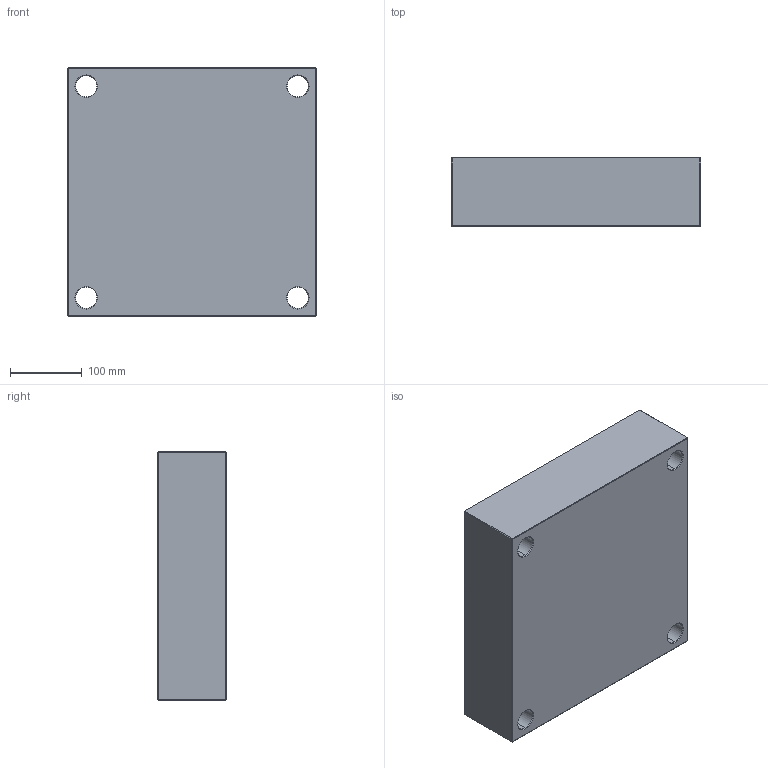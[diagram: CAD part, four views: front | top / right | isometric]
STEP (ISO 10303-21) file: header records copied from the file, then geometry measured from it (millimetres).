
FILE_DESCRIPTION (( 'STEP AP214' ), '1' );
FILE_NAME ('PCX-346x346x96.STEP', '2020-05-04T08:32:37', ( 'August' ), ( '' ), 'SwSTEP 2.0', 'SolidWorks 2018', '' );
FILE_SCHEMA (( 'AUTOMOTIVE_DESIGN' ));
Length unit declared in the file: millimetre
Products named in the file (1): PCX-346x346x96
Bounding box: 346 x 96 x 346 mm (x, y, z)
Volume: 11210581.2 mm3; surface area: 404070.5 mm2
Topology: 1 solids, 1 shells, 82 faces, 168 edges, 96 vertices
Faces by surface type: plane 34, cone 24, cylinder 24
Entity records: 2170 total; most frequent: DIRECTION 406, CARTESIAN_POINT 347, ORIENTED_EDGE 336, EDGE_CURVE 168, AXIS2_PLACEMENT_3D 155, EDGE_LOOP 98, VERTEX_POINT 96, VECTOR 96
